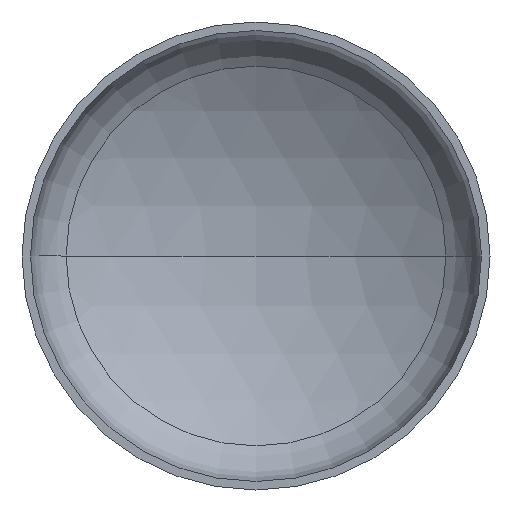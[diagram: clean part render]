
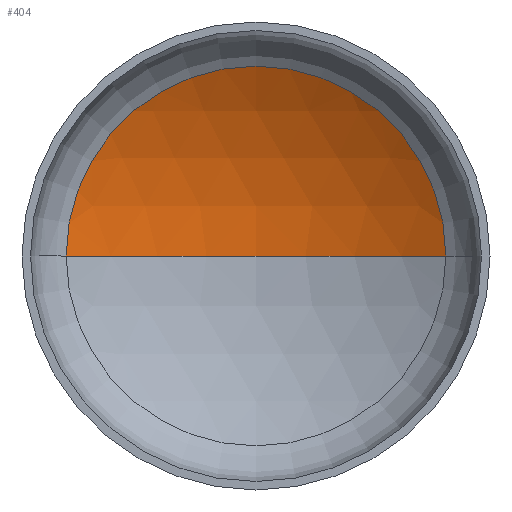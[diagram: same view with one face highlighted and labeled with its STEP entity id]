
A CAD part, front view. The second image highlights one B-rep face of the part: STEP entity #404.
In plain terms, the highlighted spherical face has radius 880 mm.
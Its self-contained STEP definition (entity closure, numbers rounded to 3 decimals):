
#2 = ORIENTED_EDGE ( 'NONE', *, *, #181, .T. ) ;
#11 = VERTEX_POINT ( 'NONE', #281 ) ;
#54 = AXIS2_PLACEMENT_3D ( 'NONE', #157, #144, #175 ) ;
#55 = AXIS2_PLACEMENT_3D ( 'NONE', #246, #222, #228 ) ;
#59 = AXIS2_PLACEMENT_3D ( 'NONE', #94, #398, #123 ) ;
#78 = VERTEX_POINT ( 'NONE', #225 ) ;
#94 = CARTESIAN_POINT ( 'NONE',  ( 0., 206.527, 0. ) ) ;
#111 = ORIENTED_EDGE ( 'NONE', *, *, #173, .T. ) ;
#114 = VERTEX_POINT ( 'NONE', #410 ) ;
#116 = EDGE_LOOP ( 'NONE', ( #209, #2, #111 ) ) ;
#123 = DIRECTION ( 'NONE',  ( 1., 0., 0. ) ) ;
#144 = DIRECTION ( 'NONE',  ( 0., 0., 1. ) ) ;
#157 = CARTESIAN_POINT ( 'NONE',  ( 0., -551.964, 0. ) ) ;
#173 = EDGE_CURVE ( 'NONE', #114, #11, #240, .T. ) ;
#175 = DIRECTION ( 'NONE',  ( 1., 0., 0. ) ) ;
#181 = EDGE_CURVE ( 'NONE', #78, #114, #360, .T. ) ;
#183 = SPHERICAL_SURFACE ( 'NONE', #384, 880. ) ;
#193 = EDGE_CURVE ( 'NONE', #78, #11, #290, .T. ) ;
#199 = DIRECTION ( 'NONE',  ( -1., 0., 0. ) ) ;
#209 = ORIENTED_EDGE ( 'NONE', *, *, #193, .F. ) ;
#211 = CARTESIAN_POINT ( 'NONE',  ( 0., -551.964, 0. ) ) ;
#215 = DIRECTION ( 'NONE',  ( 0., 0., -1. ) ) ;
#222 = DIRECTION ( 'NONE',  ( 0., 0., -1. ) ) ;
#225 = CARTESIAN_POINT ( 'NONE',  ( 0., 328.036, 0. ) ) ;
#228 = DIRECTION ( 'NONE',  ( -1., 0., 0. ) ) ;
#240 = CIRCLE ( 'NONE', #59, 446.197 ) ;
#246 = CARTESIAN_POINT ( 'NONE',  ( 0., -551.964, 0. ) ) ;
#281 = CARTESIAN_POINT ( 'NONE',  ( -446.197, 206.527, 0. ) ) ;
#290 = CIRCLE ( 'NONE', #54, 880. ) ;
#314 = FACE_OUTER_BOUND ( 'NONE', #116, .T. ) ;
#360 = CIRCLE ( 'NONE', #55, 880. ) ;
#384 = AXIS2_PLACEMENT_3D ( 'NONE', #211, #215, #199 ) ;
#398 = DIRECTION ( 'NONE',  ( 0., -1., 0. ) ) ;
#404 = ADVANCED_FACE ( 'NONE', ( #314 ), #183, .F. ) ;
#410 = CARTESIAN_POINT ( 'NONE',  ( 446.197, 206.527, 0. ) ) ;
